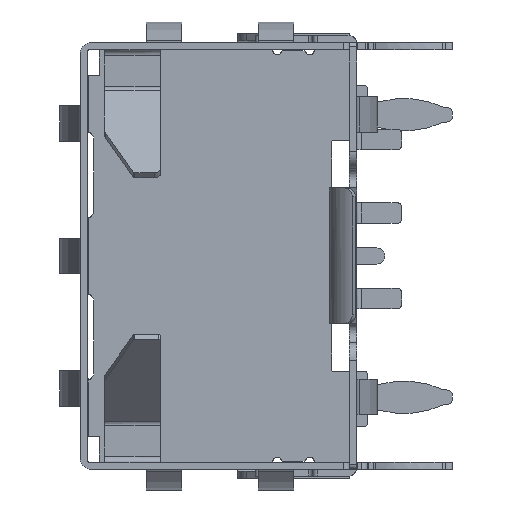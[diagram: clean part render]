
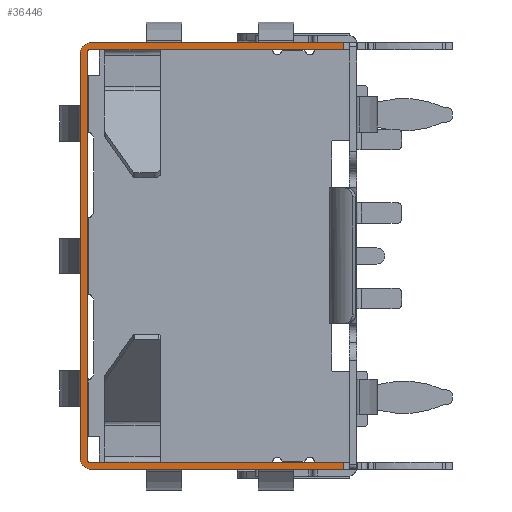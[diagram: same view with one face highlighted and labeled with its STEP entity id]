
A CAD part, left-side view. The second image highlights one B-rep face of the part: STEP entity #36446.
In plain terms, the highlighted planar face has unit normal (-1, 0, 0).
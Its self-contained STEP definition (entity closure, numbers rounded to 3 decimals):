
#740 = EDGE_CURVE ( 'NONE', #27689, #19769, #6578, .T. ) ;
#1333 = VERTEX_POINT ( 'NONE', #21930 ) ;
#1625 = CARTESIAN_POINT ( 'NONE',  ( 0., -0.05, -14.25 ) ) ;
#2150 = AXIS2_PLACEMENT_3D ( 'NONE', #13581, #16482, #36424 ) ;
#2961 = DIRECTION ( 'NONE',  ( 1., 0., 0. ) ) ;
#4022 = EDGE_CURVE ( 'NONE', #4521, #1333, #27861, .T. ) ;
#4085 = CIRCLE ( 'NONE', #11828, 0.05 ) ;
#4185 = ORIENTED_EDGE ( 'NONE', *, *, #740, .T. ) ;
#4311 = CARTESIAN_POINT ( 'NONE',  ( 0., 0., -14.1 ) ) ;
#4329 = CARTESIAN_POINT ( 'NONE',  ( 0., -0.15, -14.1 ) ) ;
#4521 = VERTEX_POINT ( 'NONE', #5676 ) ;
#4708 = ORIENTED_EDGE ( 'NONE', *, *, #10533, .T. ) ;
#5676 = CARTESIAN_POINT ( 'NONE',  ( 0., -0.05, -0.25 ) ) ;
#5968 = VECTOR ( 'NONE', #36066, 1000. ) ;
#5994 = AXIS2_PLACEMENT_3D ( 'NONE', #8244, #28256, #11138 ) ;
#6578 = LINE ( 'NONE', #34259, #28499 ) ;
#6651 = VERTEX_POINT ( 'NONE', #25353 ) ;
#6814 = CIRCLE ( 'NONE', #12198, 0.05 ) ;
#6864 = ORIENTED_EDGE ( 'NONE', *, *, #25609, .T. ) ;
#7192 = DIRECTION ( 'NONE',  ( 0., 0., -1. ) ) ;
#7765 = LINE ( 'NONE', #27594, #5968 ) ;
#8244 = CARTESIAN_POINT ( 'NONE',  ( 0., -0.15, -0.4 ) ) ;
#8847 = CARTESIAN_POINT ( 'NONE',  ( 0., -0.15, 0. ) ) ;
#8857 = CARTESIAN_POINT ( 'NONE',  ( 0., 0.25, -14.1 ) ) ;
#10212 = EDGE_LOOP ( 'NONE', ( #12348, #34483, #23244, #27321, #28788, #22368, #12395, #4185, #25737, #6864, #33700, #4708 ) ) ;
#10533 = EDGE_CURVE ( 'NONE', #18106, #4521, #4085, .T. ) ;
#11000 = VECTOR ( 'NONE', #15698, 1000. ) ;
#11138 = DIRECTION ( 'NONE',  ( 0., -1., 0. ) ) ;
#11397 = CIRCLE ( 'NONE', #5994, 0.4 ) ;
#11828 = AXIS2_PLACEMENT_3D ( 'NONE', #20121, #2961, #22962 ) ;
#11869 = EDGE_CURVE ( 'NONE', #13646, #31494, #16615, .T. ) ;
#12198 = AXIS2_PLACEMENT_3D ( 'NONE', #33097, #16029, #35968 ) ;
#12348 = ORIENTED_EDGE ( 'NONE', *, *, #4022, .T. ) ;
#12395 = ORIENTED_EDGE ( 'NONE', *, *, #34783, .T. ) ;
#12404 = CARTESIAN_POINT ( 'NONE',  ( 0., -8.7, -14.5 ) ) ;
#12959 = DIRECTION ( 'NONE',  ( 0., 0., -1. ) ) ;
#13581 = CARTESIAN_POINT ( 'NONE',  ( 0., -100.209, -14.1 ) ) ;
#13646 = VERTEX_POINT ( 'NONE', #31179 ) ;
#14112 = VERTEX_POINT ( 'NONE', #33498 ) ;
#14440 = EDGE_CURVE ( 'NONE', #19769, #17884, #23989, .T. ) ;
#14630 = DIRECTION ( 'NONE',  ( 0., 1., 0. ) ) ;
#14638 = DIRECTION ( 'NONE',  ( 0., 0., -1. ) ) ;
#15180 = CARTESIAN_POINT ( 'NONE',  ( 0., -100.209, -0.25 ) ) ;
#15420 = DIRECTION ( 'NONE',  ( 0., -1., 0. ) ) ;
#15499 = CIRCLE ( 'NONE', #26862, 0.4 ) ;
#15698 = DIRECTION ( 'NONE',  ( 0., 0., 1. ) ) ;
#15889 = EDGE_CURVE ( 'NONE', #22143, #31494, #11397, .T. ) ;
#16029 = DIRECTION ( 'NONE',  ( 1., 0., 0. ) ) ;
#16482 = DIRECTION ( 'NONE',  ( -1., 0., 0. ) ) ;
#16615 = LINE ( 'NONE', #25967, #24170 ) ;
#16963 = CARTESIAN_POINT ( 'NONE',  ( 0., 0., -14.2 ) ) ;
#17161 = CARTESIAN_POINT ( 'NONE',  ( 0., 0., -0.3 ) ) ;
#17324 = VECTOR ( 'NONE', #17998, 1000. ) ;
#17413 = EDGE_CURVE ( 'NONE', #14112, #6651, #15499, .T. ) ;
#17884 = VERTEX_POINT ( 'NONE', #1625 ) ;
#17998 = DIRECTION ( 'NONE',  ( 0., 1., 0. ) ) ;
#18106 = VERTEX_POINT ( 'NONE', #17161 ) ;
#19321 = FACE_OUTER_BOUND ( 'NONE', #10212, .T. ) ;
#19769 = VERTEX_POINT ( 'NONE', #28601 ) ;
#20121 = CARTESIAN_POINT ( 'NONE',  ( 0., -0.05, -0.3 ) ) ;
#21930 = CARTESIAN_POINT ( 'NONE',  ( 0., -8.7, -0.25 ) ) ;
#22054 = VECTOR ( 'NONE', #15420, 1000. ) ;
#22143 = VERTEX_POINT ( 'NONE', #36141 ) ;
#22368 = ORIENTED_EDGE ( 'NONE', *, *, #17413, .F. ) ;
#22962 = DIRECTION ( 'NONE',  ( 0., 0., 1. ) ) ;
#23244 = ORIENTED_EDGE ( 'NONE', *, *, #11869, .T. ) ;
#23989 = LINE ( 'NONE', #35094, #17324 ) ;
#24170 = VECTOR ( 'NONE', #14630, 1000. ) ;
#24318 = DIRECTION ( 'NONE',  ( 1., 0., 0. ) ) ;
#24583 = VERTEX_POINT ( 'NONE', #16963 ) ;
#25353 = CARTESIAN_POINT ( 'NONE',  ( 0., 0.25, -14.1 ) ) ;
#25532 = VECTOR ( 'NONE', #14638, 1000. ) ;
#25609 = EDGE_CURVE ( 'NONE', #17884, #24583, #6814, .T. ) ;
#25737 = ORIENTED_EDGE ( 'NONE', *, *, #14440, .T. ) ;
#25967 = CARTESIAN_POINT ( 'NONE',  ( 0., -100.209, 0. ) ) ;
#26188 = LINE ( 'NONE', #35642, #11000 ) ;
#26415 = EDGE_CURVE ( 'NONE', #22143, #6651, #33137, .T. ) ;
#26862 = AXIS2_PLACEMENT_3D ( 'NONE', #4329, #24318, #7192 ) ;
#27321 = ORIENTED_EDGE ( 'NONE', *, *, #15889, .F. ) ;
#27594 = CARTESIAN_POINT ( 'NONE',  ( 0., -100.209, -14.5 ) ) ;
#27689 = VERTEX_POINT ( 'NONE', #12404 ) ;
#27861 = LINE ( 'NONE', #15180, #22054 ) ;
#28256 = DIRECTION ( 'NONE',  ( 1., 0., 0. ) ) ;
#28499 = VECTOR ( 'NONE', #34219, 1000. ) ;
#28601 = CARTESIAN_POINT ( 'NONE',  ( 0., -8.7, -14.25 ) ) ;
#28788 = ORIENTED_EDGE ( 'NONE', *, *, #26415, .T. ) ;
#30637 = EDGE_CURVE ( 'NONE', #1333, #13646, #26188, .T. ) ;
#30684 = PLANE ( 'NONE',  #2150 ) ;
#31179 = CARTESIAN_POINT ( 'NONE',  ( 0., -8.7, 0. ) ) ;
#31494 = VERTEX_POINT ( 'NONE', #8847 ) ;
#32191 = LINE ( 'NONE', #4311, #33095 ) ;
#33095 = VECTOR ( 'NONE', #12959, 1000. ) ;
#33097 = CARTESIAN_POINT ( 'NONE',  ( 0., -0.05, -14.2 ) ) ;
#33137 = LINE ( 'NONE', #8857, #25532 ) ;
#33498 = CARTESIAN_POINT ( 'NONE',  ( 0., -0.15, -14.5 ) ) ;
#33700 = ORIENTED_EDGE ( 'NONE', *, *, #37155, .F. ) ;
#34219 = DIRECTION ( 'NONE',  ( 0., 0., 1. ) ) ;
#34259 = CARTESIAN_POINT ( 'NONE',  ( 0., -8.7, -14.1 ) ) ;
#34483 = ORIENTED_EDGE ( 'NONE', *, *, #30637, .T. ) ;
#34783 = EDGE_CURVE ( 'NONE', #14112, #27689, #7765, .T. ) ;
#35094 = CARTESIAN_POINT ( 'NONE',  ( 0., -100.209, -14.25 ) ) ;
#35642 = CARTESIAN_POINT ( 'NONE',  ( 0., -8.7, -14.1 ) ) ;
#35968 = DIRECTION ( 'NONE',  ( 0., 0., -1. ) ) ;
#36066 = DIRECTION ( 'NONE',  ( 0., -1., 0. ) ) ;
#36141 = CARTESIAN_POINT ( 'NONE',  ( 0., 0.25, -0.4 ) ) ;
#36424 = DIRECTION ( 'NONE',  ( 0., 0., 1. ) ) ;
#36446 = ADVANCED_FACE ( 'NONE', ( #19321 ), #30684, .T. ) ;
#37155 = EDGE_CURVE ( 'NONE', #18106, #24583, #32191, .T. ) ;
